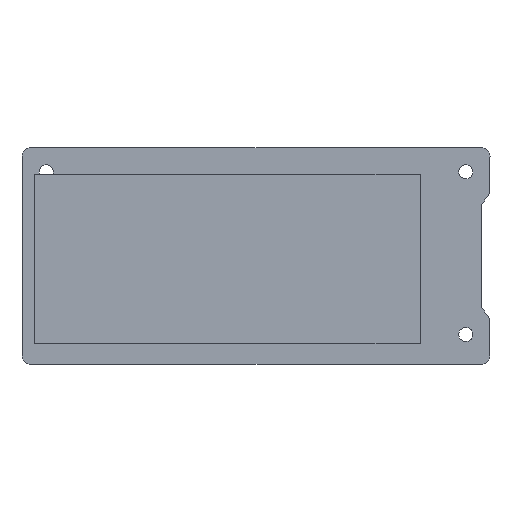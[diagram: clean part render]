
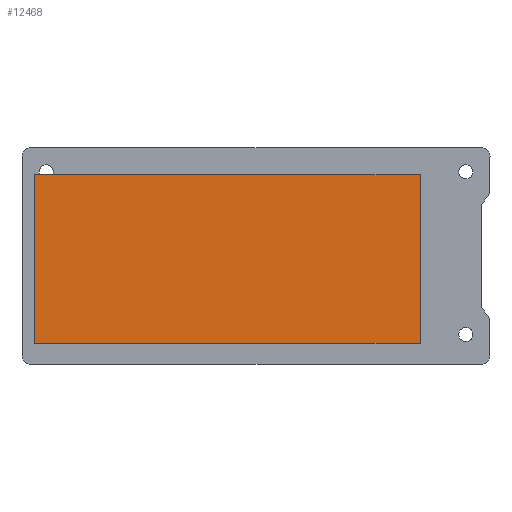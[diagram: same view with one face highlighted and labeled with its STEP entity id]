
A CAD part, top view. The second image highlights one B-rep face of the part: STEP entity #12468.
In plain terms, the highlighted planar face has unit normal (0, 0, 1).
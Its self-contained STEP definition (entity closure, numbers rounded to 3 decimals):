
#12468=ADVANCED_FACE('',(#16339),#14045,.T.);
#14045=PLANE('',#54539);
#16339=FACE_OUTER_BOUND('',#18799,.T.);
#18799=EDGE_LOOP('',(#31470,#31471,#31472,#31473));
#31470=ORIENTED_EDGE('',*,*,#41968,.T.);
#31471=ORIENTED_EDGE('',*,*,#41958,.T.);
#31472=ORIENTED_EDGE('',*,*,#41962,.T.);
#31473=ORIENTED_EDGE('',*,*,#41965,.T.);
#35625=VERTEX_POINT('',#89142);
#35626=VERTEX_POINT('',#89143);
#35629=VERTEX_POINT('',#89151);
#35631=VERTEX_POINT('',#89157);
#41958=EDGE_CURVE('',#35625,#35626,#46739,.T.);
#41962=EDGE_CURVE('',#35626,#35629,#46743,.T.);
#41965=EDGE_CURVE('',#35629,#35631,#46746,.T.);
#41968=EDGE_CURVE('',#35631,#35625,#46749,.T.);
#46739=LINE('',#89141,#51520);
#46743=LINE('',#89150,#51524);
#46746=LINE('',#89156,#51527);
#46749=LINE('',#89162,#51530);
#51520=VECTOR('',#65397,1.);
#51524=VECTOR('',#65403,1.);
#51527=VECTOR('',#65408,1.);
#51530=VECTOR('',#65413,1.);
#54539=AXIS2_PLACEMENT_3D('',#89166,#65419,#65420);
#65397=DIRECTION('',(-1.,0.,0.));
#65403=DIRECTION('',(0.,-1.,0.));
#65408=DIRECTION('',(1.,0.,0.));
#65413=DIRECTION('',(0.,1.,0.));
#65419=DIRECTION('',(0.,0.,1.));
#65420=DIRECTION('',(1.,0.,0.));
#89141=CARTESIAN_POINT('',(37.8,15.35,1.5));
#89142=CARTESIAN_POINT('',(37.8,15.35,1.5));
#89143=CARTESIAN_POINT('',(-29.7,15.35,1.5));
#89150=CARTESIAN_POINT('',(-29.7,15.35,1.5));
#89151=CARTESIAN_POINT('',(-29.7,-14.15,1.5));
#89156=CARTESIAN_POINT('',(-29.7,-14.15,1.5));
#89157=CARTESIAN_POINT('',(37.8,-14.15,1.5));
#89162=CARTESIAN_POINT('',(37.8,-14.15,1.5));
#89166=CARTESIAN_POINT('',(0.,0.,1.5));
